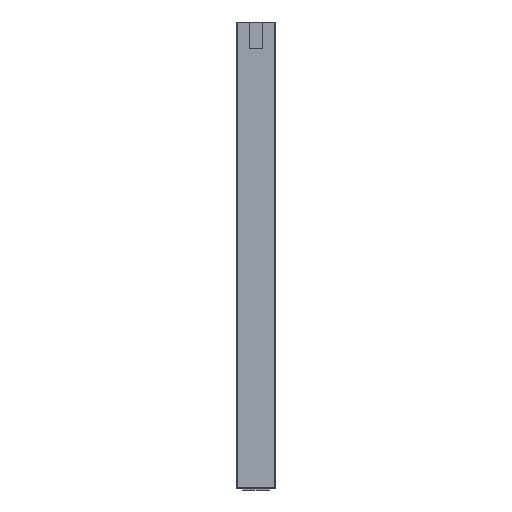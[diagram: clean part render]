
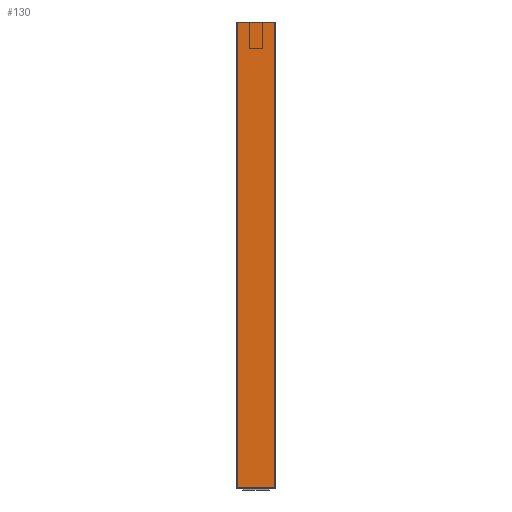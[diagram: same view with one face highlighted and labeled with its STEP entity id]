
A CAD part, left-side view. The second image highlights one B-rep face of the part: STEP entity #130.
In plain terms, the highlighted planar face has unit normal (-1, 0, 0).
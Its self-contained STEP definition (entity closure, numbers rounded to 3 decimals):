
#130 = ADVANCED_FACE( '', ( #278 ), #279, .F. );
#278 = FACE_OUTER_BOUND( '', #435, .T. );
#279 = PLANE( '', #436 );
#435 = EDGE_LOOP( '', ( #779, #780, #781, #782 ) );
#436 = AXIS2_PLACEMENT_3D( '', #783, #784, #785 );
#779 = ORIENTED_EDGE( '', *, *, #958, .T. );
#780 = ORIENTED_EDGE( '', *, *, #1030, .F. );
#781 = ORIENTED_EDGE( '', *, *, #1012, .F. );
#782 = ORIENTED_EDGE( '', *, *, #925, .T. );
#783 = CARTESIAN_POINT( '', ( 0., 60., 0. ) );
#784 = DIRECTION( '', ( 1., 0., 0. ) );
#785 = DIRECTION( '', ( 0., 0., -1. ) );
#925 = EDGE_CURVE( '', #1121, #1119, #1122, .T. );
#958 = EDGE_CURVE( '', #1119, #1175, #1176, .T. );
#1012 = EDGE_CURVE( '', #1121, #1252, #1253, .T. );
#1030 = EDGE_CURVE( '', #1252, #1175, #1275, .T. );
#1119 = VERTEX_POINT( '', #1398 );
#1121 = VERTEX_POINT( '', #1401 );
#1122 = LINE( '', #1402, #1403 );
#1175 = VERTEX_POINT( '', #1477 );
#1176 = LINE( '', #1478, #1479 );
#1252 = VERTEX_POINT( '', #1589 );
#1253 = LINE( '', #1590, #1591 );
#1275 = LINE( '', #1625, #1626 );
#1398 = CARTESIAN_POINT( '', ( 0., 0., 0. ) );
#1401 = CARTESIAN_POINT( '', ( 0., 60., 0. ) );
#1402 = CARTESIAN_POINT( '', ( 0., 60., 0. ) );
#1403 = VECTOR( '', #1684, 1000. );
#1477 = CARTESIAN_POINT( '', ( 0., 0., 712. ) );
#1478 = CARTESIAN_POINT( '', ( 0., 0., 0. ) );
#1479 = VECTOR( '', #1721, 1000. );
#1589 = CARTESIAN_POINT( '', ( 0., 60., 712. ) );
#1590 = CARTESIAN_POINT( '', ( 0., 60., 0. ) );
#1591 = VECTOR( '', #1768, 1000. );
#1625 = CARTESIAN_POINT( '', ( 0., 60., 712. ) );
#1626 = VECTOR( '', #1781, 1000. );
#1684 = DIRECTION( '', ( 0., -1., 0. ) );
#1721 = DIRECTION( '', ( 0., 0., 1. ) );
#1768 = DIRECTION( '', ( 0., 0., 1. ) );
#1781 = DIRECTION( '', ( 0., -1., 0. ) );
